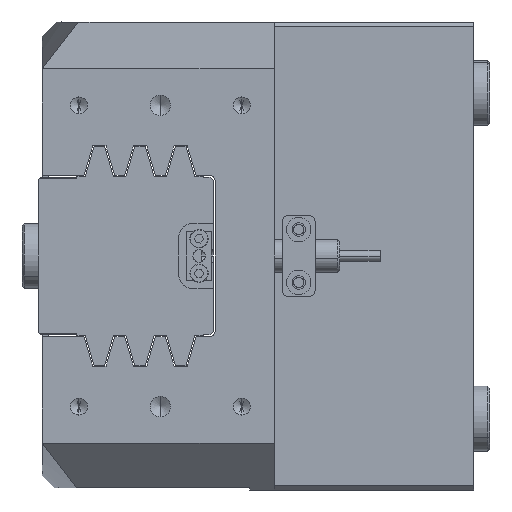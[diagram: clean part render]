
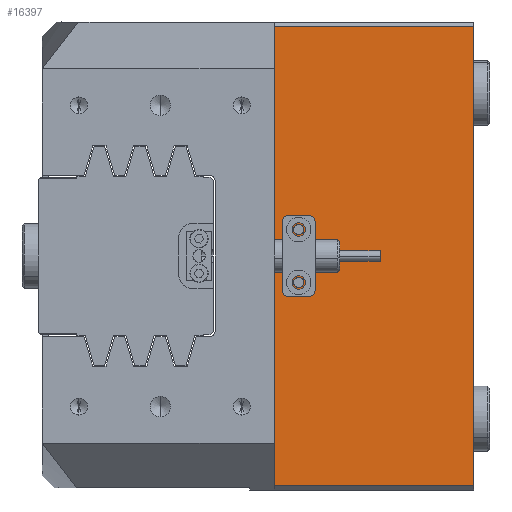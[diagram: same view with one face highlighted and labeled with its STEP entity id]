
A CAD part, left-side view. The second image highlights one B-rep face of the part: STEP entity #16397.
In plain terms, the highlighted planar face has unit normal (-1, 0, 0).
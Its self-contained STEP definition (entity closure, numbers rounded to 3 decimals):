
#328 = EDGE_LOOP ( 'NONE', ( #7504, #7362 ) ) ;
#1242 = VERTEX_POINT ( 'NONE', #22311 ) ;
#1475 = AXIS2_PLACEMENT_3D ( 'NONE', #7034, #7329, #7183 ) ;
#1654 = CIRCLE ( 'NONE', #24507, 1.25 ) ;
#2368 = FACE_BOUND ( 'NONE', #5363, .T. ) ;
#2389 = ORIENTED_EDGE ( 'NONE', *, *, #9159, .F. ) ;
#2430 = CARTESIAN_POINT ( 'NONE',  ( -93., -20.5, 6.5 ) ) ;
#2649 = CARTESIAN_POINT ( 'NONE',  ( -93., -63.5, 57.5 ) ) ;
#2707 = VERTEX_POINT ( 'NONE', #26921 ) ;
#2905 = EDGE_LOOP ( 'NONE', ( #11143, #19537, #23690, #5388 ) ) ;
#3661 = DIRECTION ( 'NONE',  ( 0., 0., 1. ) ) ;
#3987 = DIRECTION ( 'NONE',  ( 0., 0., 1. ) ) ;
#4346 = VECTOR ( 'NONE', #27158, 1000. ) ;
#5363 = EDGE_LOOP ( 'NONE', ( #14327, #2389 ) ) ;
#5388 = ORIENTED_EDGE ( 'NONE', *, *, #24482, .T. ) ;
#5404 = AXIS2_PLACEMENT_3D ( 'NONE', #10528, #19124, #3661 ) ;
#5717 = CARTESIAN_POINT ( 'NONE',  ( -93., -63.5, 57.5 ) ) ;
#6374 = VERTEX_POINT ( 'NONE', #7687 ) ;
#6586 = DIRECTION ( 'NONE',  ( 0., 1., 0. ) ) ;
#7034 = CARTESIAN_POINT ( 'NONE',  ( -93., -20.5, -6.5 ) ) ;
#7135 = CARTESIAN_POINT ( 'NONE',  ( -93., -63.5, 56.5 ) ) ;
#7183 = DIRECTION ( 'NONE',  ( 0., 0., 1. ) ) ;
#7329 = DIRECTION ( 'NONE',  ( -1., 0., 0. ) ) ;
#7362 = ORIENTED_EDGE ( 'NONE', *, *, #18961, .F. ) ;
#7504 = ORIENTED_EDGE ( 'NONE', *, *, #11518, .F. ) ;
#7687 = CARTESIAN_POINT ( 'NONE',  ( -93., -20.5, 5.25 ) ) ;
#7955 = CARTESIAN_POINT ( 'NONE',  ( -93., -63.5, -56.5 ) ) ;
#8397 = CARTESIAN_POINT ( 'NONE',  ( -93., -63.5, -56.5 ) ) ;
#8478 = CARTESIAN_POINT ( 'NONE',  ( -93., -14.5, 56.5 ) ) ;
#9159 = EDGE_CURVE ( 'NONE', #6374, #2707, #14575, .T. ) ;
#9488 = EDGE_CURVE ( 'NONE', #25139, #18056, #14616, .T. ) ;
#9611 = AXIS2_PLACEMENT_3D ( 'NONE', #2430, #27654, #3987 ) ;
#9966 = CARTESIAN_POINT ( 'NONE',  ( -93., -14.5, 57.5 ) ) ;
#9983 = CIRCLE ( 'NONE', #1475, 1.25 ) ;
#10065 = VECTOR ( 'NONE', #12758, 1000. ) ;
#10528 = CARTESIAN_POINT ( 'NONE',  ( -93., -20.5, 6.5 ) ) ;
#11143 = ORIENTED_EDGE ( 'NONE', *, *, #25781, .T. ) ;
#11220 = FACE_OUTER_BOUND ( 'NONE', #2905, .T. ) ;
#11518 = EDGE_CURVE ( 'NONE', #21315, #1242, #1654, .T. ) ;
#11981 = VERTEX_POINT ( 'NONE', #8478 ) ;
#12595 = CIRCLE ( 'NONE', #5404, 1.25 ) ;
#12758 = DIRECTION ( 'NONE',  ( 0., -1., 0. ) ) ;
#13673 = VECTOR ( 'NONE', #26042, 1000. ) ;
#14198 = LINE ( 'NONE', #9966, #25824 ) ;
#14327 = ORIENTED_EDGE ( 'NONE', *, *, #17214, .F. ) ;
#14575 = CIRCLE ( 'NONE', #9611, 1.25 ) ;
#14616 = LINE ( 'NONE', #8397, #10065 ) ;
#16204 = DIRECTION ( 'NONE',  ( 0., 0., 1. ) ) ;
#16397 = ADVANCED_FACE ( 'NONE', ( #2368, #21624, #11220 ), #23425, .F. ) ;
#17123 = CARTESIAN_POINT ( 'NONE',  ( -93., -63.5, 56.5 ) ) ;
#17214 = EDGE_CURVE ( 'NONE', #2707, #6374, #12595, .T. ) ;
#17573 = DIRECTION ( 'NONE',  ( 1., 0., 0. ) ) ;
#18056 = VERTEX_POINT ( 'NONE', #7955 ) ;
#18366 = CARTESIAN_POINT ( 'NONE',  ( -93., -20.5, -5.25 ) ) ;
#18580 = DIRECTION ( 'NONE',  ( 0., 0., -1. ) ) ;
#18961 = EDGE_CURVE ( 'NONE', #1242, #21315, #9983, .T. ) ;
#19124 = DIRECTION ( 'NONE',  ( -1., 0., 0. ) ) ;
#19537 = ORIENTED_EDGE ( 'NONE', *, *, #9488, .T. ) ;
#21315 = VERTEX_POINT ( 'NONE', #18366 ) ;
#21624 = FACE_BOUND ( 'NONE', #328, .T. ) ;
#22194 = EDGE_CURVE ( 'NONE', #27288, #18056, #24943, .T. ) ;
#22311 = CARTESIAN_POINT ( 'NONE',  ( -93., -20.5, -7.75 ) ) ;
#22377 = CARTESIAN_POINT ( 'NONE',  ( -93., -20.5, -6.5 ) ) ;
#23425 = PLANE ( 'NONE',  #27271 ) ;
#23690 = ORIENTED_EDGE ( 'NONE', *, *, #22194, .F. ) ;
#23943 = LINE ( 'NONE', #17123, #13673 ) ;
#24482 = EDGE_CURVE ( 'NONE', #27288, #11981, #23943, .T. ) ;
#24507 = AXIS2_PLACEMENT_3D ( 'NONE', #22377, #24599, #16204 ) ;
#24599 = DIRECTION ( 'NONE',  ( -1., 0., 0. ) ) ;
#24943 = LINE ( 'NONE', #5717, #4346 ) ;
#25139 = VERTEX_POINT ( 'NONE', #26154 ) ;
#25781 = EDGE_CURVE ( 'NONE', #11981, #25139, #14198, .T. ) ;
#25824 = VECTOR ( 'NONE', #18580, 1000. ) ;
#26042 = DIRECTION ( 'NONE',  ( 0., 1., 0. ) ) ;
#26154 = CARTESIAN_POINT ( 'NONE',  ( -93., -14.5, -56.5 ) ) ;
#26921 = CARTESIAN_POINT ( 'NONE',  ( -93., -20.5, 7.75 ) ) ;
#27158 = DIRECTION ( 'NONE',  ( 0., 0., -1. ) ) ;
#27271 = AXIS2_PLACEMENT_3D ( 'NONE', #2649, #17573, #6586 ) ;
#27288 = VERTEX_POINT ( 'NONE', #7135 ) ;
#27654 = DIRECTION ( 'NONE',  ( -1., 0., 0. ) ) ;
